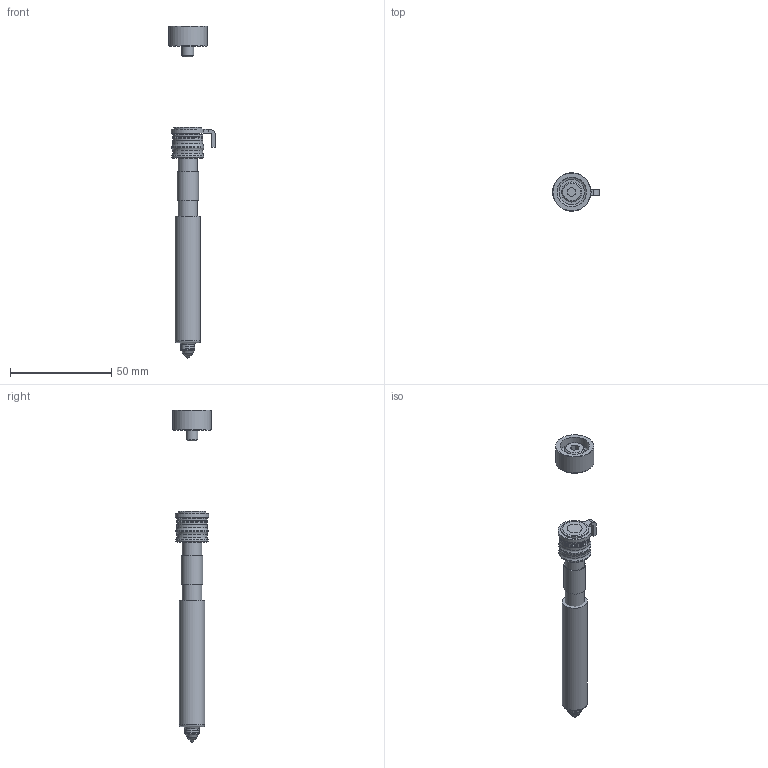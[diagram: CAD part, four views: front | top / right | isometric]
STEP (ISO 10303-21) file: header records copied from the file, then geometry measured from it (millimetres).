
FILE_DESCRIPTION(/* description */ (''),/* implementation_level */ '2;1');
FILE_NAME(/* name */ 'U250 HT-U.stp',/* time_stamp */ '2021-12-23T14:33:49+08:00',/* author */ (''),/* organization */ (''),/* preprocessor_version */ 'ST-DEVELOPER v16',/* originating_system */ 'SIEMENS PLM Software NX 11.0',/* authorisation */ '');
FILE_SCHEMA (('AUTOMOTIVE_DESIGN { 1 0 10303 214 3 1 1 1 }'));
Length unit declared in the file: millimetre
Products named in the file (10): 3D_EXPORT_3D_ASSY_11310235_2_id52_x_t; 3D_EXPORT_3D_ASSY_11310235_2_id47_x_t; 3D_EXPORT_3D_ASSY_11310235_2_id42_x_t; 3D_EXPORT_3D_ASSY_11310235_2_id37_x_t; 3D_EXPORT_3D_ASSY_11310235_2_id32_x_t; 3D_EXPORT_3D_ASSY_11310235_2_id27_x_t; 3D_EXPORT_3D_ASSY_11310235_2_id16_x_t; 3D_EXPORT_3D_ASSY_11310235_2_id11_x_t; 3D_EXPORT_3D_ASSY_11310235_2_id6_x_t; 3D_EXPORT_3D_ASSY_11310235_2_x_t
Assembly tree (12 placements, depth 2):
  3D_EXPORT_3D_ASSY_11310235_2_x_t
    3D_EXPORT_3D_ASSY_11310235_2_id6_x_t
    3D_EXPORT_3D_ASSY_11310235_2_id11_x_t
    3D_EXPORT_3D_ASSY_11310235_2_id16_x_t  x4
    3D_EXPORT_3D_ASSY_11310235_2_id27_x_t
    3D_EXPORT_3D_ASSY_11310235_2_id32_x_t
    3D_EXPORT_3D_ASSY_11310235_2_id37_x_t
    3D_EXPORT_3D_ASSY_11310235_2_id42_x_t
    3D_EXPORT_3D_ASSY_11310235_2_id47_x_t
    3D_EXPORT_3D_ASSY_11310235_2_id52_x_t
Bounding box: 23.18 x 19 x 163.81 mm (x, y, z)
Volume: 24179.5 mm3; surface area: 13521.5 mm2
Topology: 12 solids, 13 shells, 167 faces, 344 edges, 215 vertices
Faces by surface type: plane 59, cylinder 45, cone 38, torus 20, bspline 4, sphere 1
Full cylindrical faces by diameter (mm): 0.7 x1, 3.7 x1, 4.81 x2, 4.967 x1, 5.5 x1, 5.795 x1, 6 x1, 6.45 x1, 6.465 x1, 6.5 x1, 6.995 x1, 7 x1, 7.1 x1, 9.56 x2, 10 x1, 10.61 x1, 12.5 x1, 13.8 x1, 14.5 x1, 15 x6, 15.99 x2, 19 x1
Entity records: 5274 total; most frequent: CARTESIAN_POINT 910, DIRECTION 676, ORIENTED_EDGE 492, AXIS2_PLACEMENT_3D 302, EDGE_CURVE 246, EDGE_LOOP 236, VERTEX_POINT 190, PRESENTATION_STYLE_ASSIGNMENT 164
